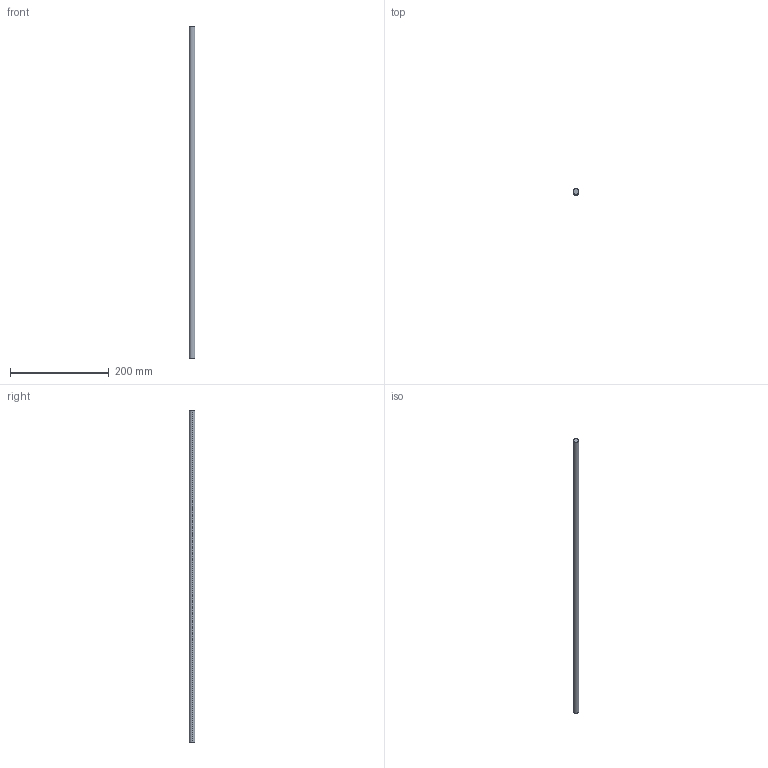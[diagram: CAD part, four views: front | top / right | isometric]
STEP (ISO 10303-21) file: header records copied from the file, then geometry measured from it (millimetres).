
FILE_DESCRIPTION (( 'STEP AP214' ), '1' );
FILE_NAME ('Magic Reling längs - 710.step', '2010-09-07T14:56:19', ( 'grass' ), ( '' ), 'SwSTEP 2.0', 'SolidWorks 2010', '' );
FILE_SCHEMA (( 'AUTOMOTIVE_DESIGN' ));
Length unit declared in the file: millimetre
Products named in the file (1): Magic Reling längs - 710
Bounding box: 12 x 12 x 672 mm (x, y, z)
Volume: 76001.4 mm3; surface area: 25560 mm2
Topology: 1 solids, 1 shells, 4 faces, 6 edges, 4 vertices
Faces by surface type: cylinder 2, plane 2
Entity records: 128 total; most frequent: DIRECTION 20, CARTESIAN_POINT 15, ORIENTED_EDGE 12, AXIS2_PLACEMENT_3D 9, EDGE_CURVE 6, ADVANCED_FACE 4, CIRCLE 4, FACE_OUTER_BOUND 4
